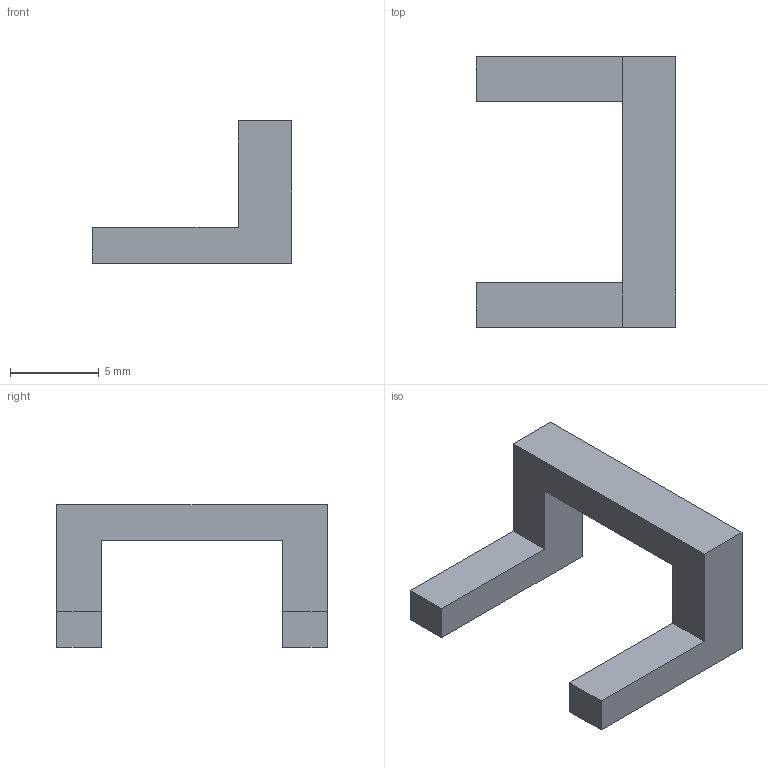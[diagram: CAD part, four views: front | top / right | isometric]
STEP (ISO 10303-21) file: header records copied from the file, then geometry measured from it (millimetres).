
FILE_DESCRIPTION(('Open CASCADE Model'),'2;1');
FILE_NAME('Open CASCADE Shape Model','2026-10-26T03:01:56',('Author'),( 'Open CASCADE'),'Open CASCADE STEP processor 7.9','build123d', 'Unknown');
FILE_SCHEMA(('AUTOMOTIVE_DESIGN { 1 0 10303 214 1 1 1 1 }'));
Length unit declared in the file: millimetre
Products named in the file (1): COMPOUND
Bounding box: 11.2 x 15.2 x 8 mm (x, y, z)
Volume: 263.2 mm3; surface area: 443.6 mm2
Topology: 1 solids, 1 shells, 14 faces, 36 edges, 24 vertices
Faces by surface type: plane 14
Entity records: 892 total; most frequent: CARTESIAN_POINT 153, DIRECTION 132, LINE 102, VECTOR 102, ORIENTED_EDGE 72, PCURVE 72, DEFINITIONAL_REPRESENTATION 72, EDGE_CURVE 36
